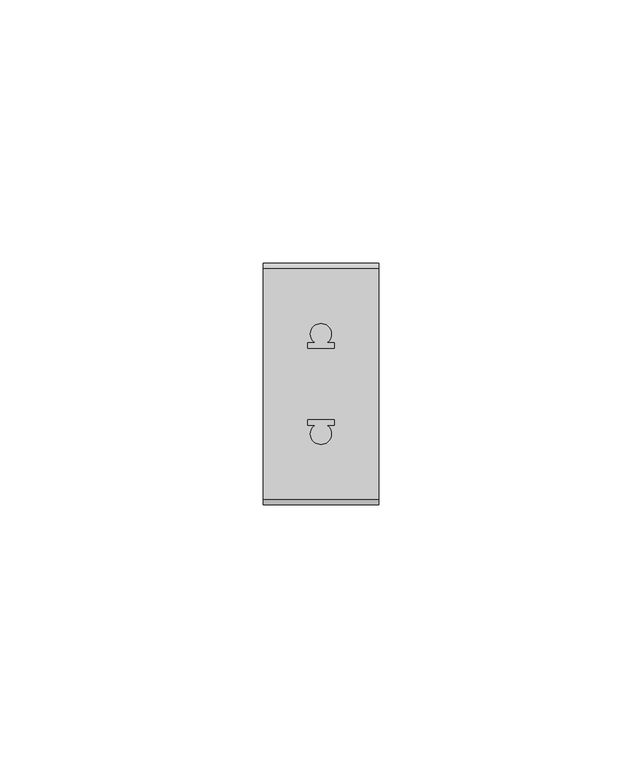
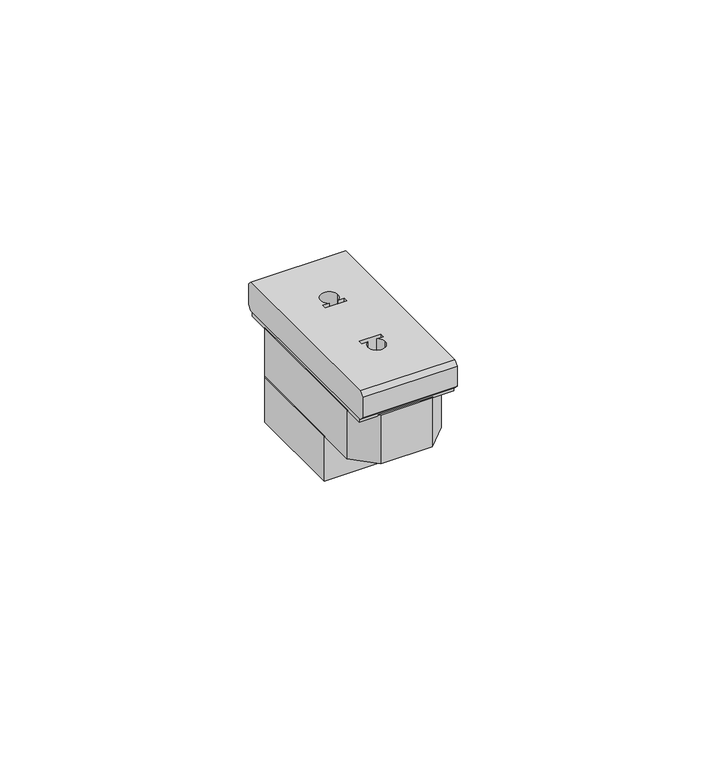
"""IFC4 building model written with IfcOpenShell, lengths in millimetres: proxy geometry, L4125 LI Presa FM 2P euro americana : L4125 LI Presa FM 2P euro americana."""

from ifc_helpers import new_model, si_unit, frame, origin, origin_with_axes, place, context, project, spatial, polyline, circle_curve, outline, extrude, source, transform, mapped, element, save
from ifc_brep_helpers import plane_surface, revolved_surface, advanced_brep


def electrical_fixtures_721393c5(model_context):
    return source(origin(), model_context, "Body", "SolidModel", [
        advanced_brep(
        [(11.0, -22.0, 1.0), (11.0, 22.0, 1.0), (11.0, 22.9899495, 1.9899495), (11.0, 22.9899495, 6.9899495), (11.0, 22.0, 7.979899), (11.0, -22.0, 7.979899), (11.0, -22.9899495, 6.9899495), (11.0, -22.9899495, 1.9899495), (-11.0, -22.0, 1.0), (-11.0, -22.9899495, 1.9899495), (-11.0, -22.9899495, 6.9899495), (-11.0, -22.0, 7.979899), (-11.0, 22.0, 7.979899), (-11.0, 22.9899495, 6.9899495), (-11.0, 22.9899495, 1.9899495), (-11.0, 22.0, 1.0), (2.0, 9.5, 1.0), (-2.0, 9.5, 1.0), (-1.0535654, 7.8, 1.0), (-2.5, 7.8, 1.0), (-2.5, 6.8, 1.0), (2.5, 6.8, 1.0), (2.5, 7.8, 1.0), (1.0535654, 7.8, 1.0), (-2.0, -9.5, 1.0), (2.0, -9.5, 1.0), (1.0535654, -7.8, 1.0), (2.5, -7.8, 1.0), (2.5, -6.8, 1.0), (-2.5, -6.8, 1.0), (-2.5, -7.8, 1.0), (-1.0535654, -7.8, 1.0), (-2.0, 9.5, 7.979899), (2.0, 9.5, 7.979899), (1.0535654, 7.8, 7.979899), (2.5, 7.8, 7.979899), (2.5, 6.8, 7.979899), (-2.5, 6.8, 7.979899), (-2.5, 7.8, 7.979899), (-1.0535654, 7.8, 7.979899), (2.0, -9.5, 7.979899), (-2.0, -9.5, 7.979899), (-1.0535654, -7.8, 7.979899), (-2.5, -7.8, 7.979899), (-2.5, -6.8, 7.979899), (2.5, -6.8, 7.979899), (2.5, -7.8, 7.979899), (1.0535654, -7.8, 7.979899)],
        [
            (0, 1),
            (1, 2),
            (2, 3),
            (3, 4),
            (4, 5),
            (5, 6),
            (6, 7),
            (7, 0),
            (8, 9),
            (9, 10),
            (10, 11),
            (11, 12),
            (12, 13),
            (13, 14),
            (14, 15),
            (15, 8),
            (0, 8),
            (15, 1),
            (16, 17, circle_curve(frame((0.0, 9.5, 1.0), z_axis=(0.0, 0.0, 1.0), x_axis=(1.0, 0.0, 0.0)), 2.0)),
            (17, 18, circle_curve(frame((0.0, 9.5, 1.0), z_axis=(0.0, 0.0, 1.0), x_axis=(1.0, 0.0, 0.0)), 2.0)),
            (18, 19),
            (19, 20),
            (20, 21),
            (21, 22),
            (22, 23),
            (23, 16, circle_curve(frame((0.0, 9.5, 1.0), z_axis=(0.0, 0.0, 1.0), x_axis=(1.0, 0.0, 0.0)), 2.0)),
            (24, 25, circle_curve(frame((0.0, -9.5, 1.0), z_axis=(0.0, 0.0, 1.0), x_axis=(1.0, 0.0, 0.0)), 2.0)),
            (25, 26, circle_curve(frame((0.0, -9.5, 1.0), z_axis=(0.0, 0.0, 1.0), x_axis=(1.0, 0.0, 0.0)), 2.0)),
            (26, 27),
            (27, 28),
            (28, 29),
            (29, 30),
            (30, 31),
            (31, 24, circle_curve(frame((0.0, -9.5, 1.0), z_axis=(0.0, 0.0, 1.0), x_axis=(1.0, 0.0, 0.0)), 2.0)),
            (5, 11),
            (10, 6),
            (9, 7),
            (14, 2),
            (13, 3),
            (12, 4),
            (32, 33, circle_curve(frame((0.0, 9.5, 7.979899), z_axis=(0.0, 0.0, -1.0), x_axis=(1.0, 0.0, 0.0)), 2.0)),
            (33, 34, circle_curve(frame((0.0, 9.5, 7.979899), z_axis=(0.0, 0.0, -1.0), x_axis=(1.0, 0.0, 0.0)), 2.0)),
            (34, 35),
            (35, 36),
            (36, 37),
            (37, 38),
            (38, 39),
            (39, 32, circle_curve(frame((0.0, 9.5, 7.979899), z_axis=(0.0, 0.0, -1.0), x_axis=(1.0, 0.0, 0.0)), 2.0)),
            (40, 41, circle_curve(frame((0.0, -9.5, 7.979899), z_axis=(0.0, 0.0, -1.0), x_axis=(1.0, 0.0, 0.0)), 2.0)),
            (41, 42, circle_curve(frame((0.0, -9.5, 7.979899), z_axis=(0.0, 0.0, -1.0), x_axis=(1.0, 0.0, 0.0)), 2.0)),
            (42, 43),
            (43, 44),
            (44, 45),
            (45, 46),
            (46, 47),
            (47, 40, circle_curve(frame((0.0, -9.5, 7.979899), z_axis=(0.0, 0.0, -1.0), x_axis=(1.0, 0.0, 0.0)), 2.0)),
            (17, 32),
            (39, 18),
            (33, 16),
            (23, 34),
            (40, 25),
            (24, 41),
            (31, 42),
            (47, 26),
            (35, 22),
            (21, 36),
            (38, 19),
            (37, 20),
            (44, 29),
            (28, 45),
            (43, 30),
            (46, 27),
        ],
        [
            plane_surface(frame((11.0, 0.0, 1.0), z_axis=(1.0, 0.0, 0.0), x_axis=(0.0, 1.0, 0.0))),
            plane_surface(frame((-11.0, 0.0, 1.0), z_axis=(-1.0, 0.0, 0.0), x_axis=(0.0, -1.0, 0.0))),
            plane_surface(frame((11.0, -22.0, 1.0), z_axis=(0.0, 0.0, -1.0), x_axis=(-1.0, 0.0, 0.0))),
            plane_surface(frame((11.0, -22.0, 7.979899), z_axis=(0.0, -0.7071067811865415, 0.7071067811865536), x_axis=(-1.0, 0.0, 0.0))),
            plane_surface(frame((11.0, -22.9899495, 6.9899495), z_axis=(0.0, -1.0, 0.0), x_axis=(-1.0, 0.0, 0.0))),
            plane_surface(frame((11.0, -22.9899495, 1.9899495), z_axis=(0.0, -0.707106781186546, -0.707106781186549), x_axis=(-1.0, 0.0, 0.0))),
            plane_surface(frame((11.0, 22.0, 1.0), z_axis=(0.0, 0.7071067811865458, -0.7071067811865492), x_axis=(-1.0, 0.0, 0.0))),
            plane_surface(frame((11.0, 22.9899495, 1.9899495), z_axis=(0.0, 1.0, 0.0), x_axis=(-1.0, 0.0, 0.0))),
            plane_surface(frame((11.0, 22.9899495, 6.9899495), z_axis=(0.0, 0.7071067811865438, 0.7071067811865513), x_axis=(-1.0, 0.0, 0.0))),
            plane_surface(frame((11.0, 22.0, 7.979899), z_axis=(0.0, 0.0, 1.0), x_axis=(-1.0, 0.0, 0.0))),
            revolved_surface(polyline([(2.0, 9.5, 7.979899), (2.0, 9.5, 1.0)]), (0.0, 9.5, 1.0), (0.0, 0.0, 1.0)),
            revolved_surface(polyline([(2.0, -9.5, 7.979899), (2.0, -9.5, 1.0)]), (0.0, -9.5, 0.0), (0.0, 0.0, 1.0)),
            plane_surface(frame((2.5, 6.8, 7.979899), z_axis=(-1.0, 0.0, 0.0), x_axis=(0.0, 0.0, -1.0))),
            plane_surface(frame((2.5, 7.8, 7.979899), z_axis=(0.0, -1.0, 0.0), x_axis=(0.0, 0.0, -1.0))),
            plane_surface(frame((-2.5, 7.8, 7.979899), z_axis=(1.0, 0.0, 0.0), x_axis=(0.0, 0.0, -1.0))),
            plane_surface(frame((-2.5, 6.8, 7.979899), z_axis=(0.0, 1.0, 0.0), x_axis=(0.0, 0.0, -1.0))),
            plane_surface(frame((2.5, -6.8, 7.979899), z_axis=(0.0, -1.0, 0.0), x_axis=(0.0, 0.0, -1.0))),
            plane_surface(frame((-2.5, -6.8, 7.979899), z_axis=(1.0, 0.0, 0.0), x_axis=(0.0, 0.0, -1.0))),
            plane_surface(frame((-2.5, -7.8, 7.979899), z_axis=(0.0, 1.0, 0.0), x_axis=(0.0, 0.0, -1.0))),
            plane_surface(frame((2.5, -7.8, 7.979899), z_axis=(-1.0, 0.0, 0.0), x_axis=(0.0, 0.0, -1.0))),
        ],
        [
            (0, [[1, 2, 3, 4, 5, 6, 7, 8]]),
            (1, [[9, 10, 11, 12, 13, 14, 15, 16]]),
            (2, [[-1, 17, -16, 18], [19, 20, 21, 22, 23, 24, 25, 26], [27, 28, 29, 30, 31, 32, 33, 34]]),
            (3, [[-6, 35, -11, 36]]),
            (4, [[-7, -36, -10, 37]]),
            (5, [[-8, -37, -9, -17]]),
            (6, [[-2, -18, -15, 38]]),
            (7, [[-3, -38, -14, 39]]),
            (8, [[-4, -39, -13, 40]]),
            (9, [[-5, -40, -12, -35], [41, 42, 43, 44, 45, 46, 47, 48], [49, 50, 51, 52, 53, 54, 55, 56]]),
            (10, [[57, -48, 58, -20]]),
            (10, [[59, -26, 60, -42]]),
            (10, [[-59, -41, -57, -19]]),
            (11, [[61, -27, 62, -49]]),
            (11, [[-62, -34, 63, -50]]),
            (11, [[-61, -56, 64, -28]]),
            (12, [[65, -24, 66, -44]]),
            (13, [[-65, -43, -60, -25]]),
            (13, [[67, -21, -58, -47]]),
            (14, [[-67, -46, 68, -22]]),
            (15, [[-66, -23, -68, -45]]),
            (16, [[69, -31, 70, -53]]),
            (17, [[-69, -52, 71, -32]]),
            (18, [[-71, -51, -63, -33]]),
            (18, [[72, -29, -64, -55]]),
            (19, [[-70, -30, -72, -54]]),
        ],
    ),
        extrude(outline(polyline([(-11.0, -7.5), (-11.0, 16.5), (-9.0, 18.5), (9.0, 18.5), (11.0, 16.5), (11.0, -7.5), (-11.0, -7.5)])), frame((0.0, 0.0, -23.0), z_axis=(0.0, 0.0, 1.0), x_axis=(1.0, 0.0, 0.0)), (0.0, 0.0, 1.0), 11.0),
        extrude(outline(polyline([(11.0, -16.5), (6.0, -21.5), (-6.0, -21.5), (-11.0, -16.5), (-11.0, 16.5), (-6.0, 21.5), (6.0, 21.5), (11.0, 16.5), (11.0, -16.5)])), frame((0.0, 0.0, -12.0), z_axis=(0.0, 0.0, 1.0), x_axis=(1.0, 0.0, 0.0)), (0.0, 0.0, 1.0), 12.0),
        extrude(outline(polyline([(11.0, -21.5), (-11.0, -21.5), (-11.0, 21.5), (11.0, 21.5), (11.0, -21.5)])), origin_with_axes(), (0.0, 0.0, 1.0), 1.0),
    ])


if __name__ == "__main__":
    model = new_model("IFC4")
    model_context = context("Model", 3, world=origin())
    ifc_project = project(units=[si_unit("LENGTHUNIT", "METRE", prefix="MILLI")], contexts=[model_context])
    site = spatial("IfcSite", under=ifc_project)
    building = spatial("IfcBuilding", under=site)
    placement = place(None, origin())
    electrical_fixtures_shape = electrical_fixtures_721393c5(model_context)
    element("IfcBuildingElementProxy", 1, Name="L4125 LI Presa FM 2P euro americana : L4125 LI Presa FM 2P euro americana", ObjectType="L4125 LI Presa FM 2P euro americana : L4125 LI Presa FM 2P euro americana", at=placement, inside=building, context=model_context, shape_type="MappedRepresentation", body=[
        mapped(electrical_fixtures_shape, transform((0.0, 0.0, 0.0), x_axis=(1.0, 0.0, 0.0), y_axis=(0.0, 1.0, 0.0), z_axis=(0.0, 0.0, 1.0))),
    ])
    save(model, "model.ifc")
